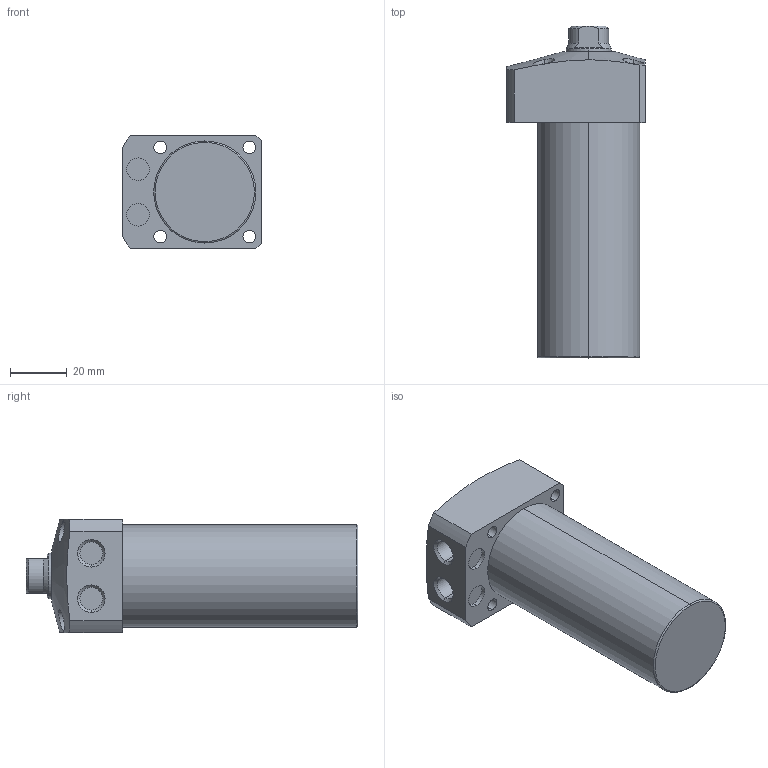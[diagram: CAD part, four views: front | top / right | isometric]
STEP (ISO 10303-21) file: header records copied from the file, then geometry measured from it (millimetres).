
FILE_DESCRIPTION (( 'STEP AP203' ), '1' );
FILE_NAME ('CLL-036CA-060.STEP', '2019-12-20T09:04:04', ( '' ), ( '' ), 'SwSTEP 2.0', 'SolidWorks 2015', '' );
FILE_SCHEMA (( 'CONFIG_CONTROL_DESIGN' ));
Length unit declared in the file: millimetre
Products named in the file (1): CLL-036CA-060
Bounding box: 49 x 117 x 40 mm (x, y, z)
Volume: 125926.2 mm3; surface area: 19562.6 mm2
Topology: 1 solids, 1 shells, 72 faces, 166 edges, 105 vertices
Faces by surface type: cylinder 34, plane 22, cone 14, torus 2
Entity records: 2453 total; most frequent: CARTESIAN_POINT 708, DIRECTION 364, ORIENTED_EDGE 328, EDGE_CURVE 164, AXIS2_PLACEMENT_3D 151, VERTEX_POINT 105, EDGE_LOOP 91, CIRCLE 78
